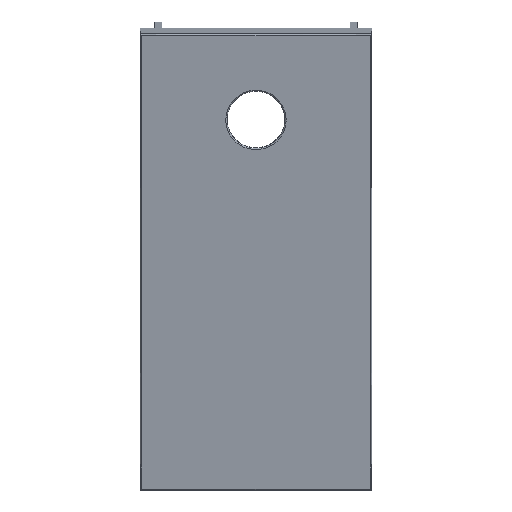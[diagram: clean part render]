
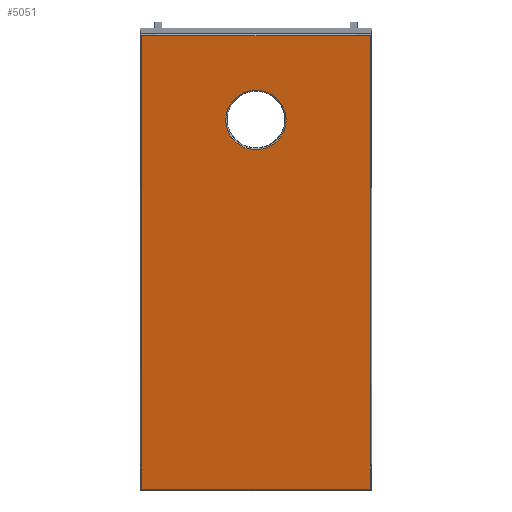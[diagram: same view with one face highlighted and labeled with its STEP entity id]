
A CAD part, top view. The second image highlights one B-rep face of the part: STEP entity #5051.
In plain terms, the highlighted free-form (B-spline) face has degree [1, 1] with [2, 2] control points.
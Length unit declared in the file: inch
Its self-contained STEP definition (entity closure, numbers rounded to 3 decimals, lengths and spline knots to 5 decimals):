
#4586 = CARTESIAN_POINT ('', (11.875, -39.53768, 4.33955));
#4587 = VERTEX_POINT ('', #4586);
#4610 = CARTESIAN_POINT ('', (-11.875, -39.53768, 4.33955));
#4611 = VERTEX_POINT ('', #4610);
#4612 = CARTESIAN_POINT ('', (11.875, -39.53768, 4.33955));
#4613 = CARTESIAN_POINT ('', (-11.875, -39.53768, 4.33955));
#4614 = B_SPLINE_CURVE_WITH_KNOTS ('', 1, (#4612, #4613), .UNSPECIFIED., .F., .U., (2, 2), (12.125, 35.875), .UNSPECIFIED.);
#4615 = EDGE_CURVE ('', #4587, #4611, #4614, .T.);
#4658 = CARTESIAN_POINT ('', (11.875, 7.51281, 12.4829));
#4659 = VERTEX_POINT ('', #4658);
#4682 = CARTESIAN_POINT ('', (11.875, 7.51281, 12.4829));
#4683 = CARTESIAN_POINT ('', (11.875, -39.53768, 4.33955));
#4684 = B_SPLINE_CURVE_WITH_KNOTS ('', 1, (#4682, #4683), .UNSPECIFIED., .F., .U., (2, 2), (24.125, 71.875), .UNSPECIFIED.);
#4685 = EDGE_CURVE ('', #4659, #4587, #4684, .T.);
#4705 = CARTESIAN_POINT ('', (-11.875, 7.51281, 12.4829));
#4706 = VERTEX_POINT ('', #4705);
#4729 = CARTESIAN_POINT ('', (-11.875, 7.51281, 12.4829));
#4730 = CARTESIAN_POINT ('', (11.875, 7.51281, 12.4829));
#4731 = B_SPLINE_CURVE_WITH_KNOTS ('', 1, (#4729, #4730), .UNSPECIFIED., .F., .U., (2, 2), (12.125, 35.875), .UNSPECIFIED.);
#4732 = EDGE_CURVE ('', #4706, #4659, #4731, .T.);
#4938 = CARTESIAN_POINT ('', (3.125, -1.23218, 10.96935));
#4939 = VERTEX_POINT ('', #4938);
#4946 = CARTESIAN_POINT ('', (3.125, -1.23218, 10.96935));
#4947 = CARTESIAN_POINT ('', (3.125, 1.84704, 11.50229));
#4948 = CARTESIAN_POINT ('', (0., 1.84704, 11.50229));
#4949 = CARTESIAN_POINT ('', (-3.125, 1.84704, 11.50229));
#4950 = CARTESIAN_POINT ('', (-3.125, -1.23218, 10.96935));
#4951 = CARTESIAN_POINT ('', (-3.125, -4.3114, 10.43641));
#4952 = CARTESIAN_POINT ('', (0., -4.3114, 10.43641));
#4953 = CARTESIAN_POINT ('', (3.125, -4.3114, 10.43641));
#4954 = CARTESIAN_POINT ('', (3.125, -1.23218, 10.96935));
#4955 = (
   BOUNDED_CURVE ()
   B_SPLINE_CURVE (2, (#4946, #4947, #4948, #4949, #4950, #4951, #4952, #4953, #4954), .UNSPECIFIED., .T., .U.)
   B_SPLINE_CURVE_WITH_KNOTS ((3, 2, 2, 2, 3), (0., 0.25, 0.5, 0.75, 1.), .UNSPECIFIED.)
   CURVE ()
   GEOMETRIC_REPRESENTATION_ITEM ()
   RATIONAL_B_SPLINE_CURVE ((1., 0.707, 1., 0.707, 1., 0.707, 1., 0.707, 1.))
   REPRESENTATION_ITEM ('')
);
#4956 = EDGE_CURVE ('', #4939, #4939, #4955, .T.);
#5020 = CARTESIAN_POINT ('', (-11.875, -39.53768, 4.33955));
#5021 = CARTESIAN_POINT ('', (-11.875, 7.51281, 12.4829));
#5022 = B_SPLINE_CURVE_WITH_KNOTS ('', 1, (#5020, #5021), .UNSPECIFIED., .F., .U., (2, 2), (24.125, 71.875), .UNSPECIFIED.);
#5023 = EDGE_CURVE ('', #4611, #4706, #5022, .T.);
#5037 = ORIENTED_EDGE ('', *, *, #5023, .F.);
#5038 = ORIENTED_EDGE ('', *, *, #4615, .F.);
#5039 = ORIENTED_EDGE ('', *, *, #4685, .F.);
#5040 = ORIENTED_EDGE ('', *, *, #4732, .F.);
#5041 = EDGE_LOOP ('', (#5037, #5038, #5039, #5040));
#5042 = FACE_OUTER_BOUND ('', #5041, .T.);
#5043 = ORIENTED_EDGE ('', *, *, #4956, .F.);
#5044 = EDGE_LOOP ('', (#5043));
#5045 = FACE_BOUND ('', #5044, .T.);
#5046 = CARTESIAN_POINT ('', (-56.37375, -64.40161, 0.03618));
#5047 = CARTESIAN_POINT ('', (-56.37375, 46.64525, 19.25583));
#5048 = CARTESIAN_POINT ('', (56.32407, -64.40161, 0.03618));
#5049 = CARTESIAN_POINT ('', (56.32407, 46.64525, 19.25583));
#5050 = B_SPLINE_SURFACE_WITH_KNOTS ('', 1, 1, ((#5046, #5047), (#5048, #5049)), .UNSPECIFIED., .F., .F., .U., (2, 2), (2, 2), (0., 1.), (0., 1.), .UNSPECIFIED.);
#5051 = ADVANCED_FACE ('', (#5042, #5045), #5050, .T.);
